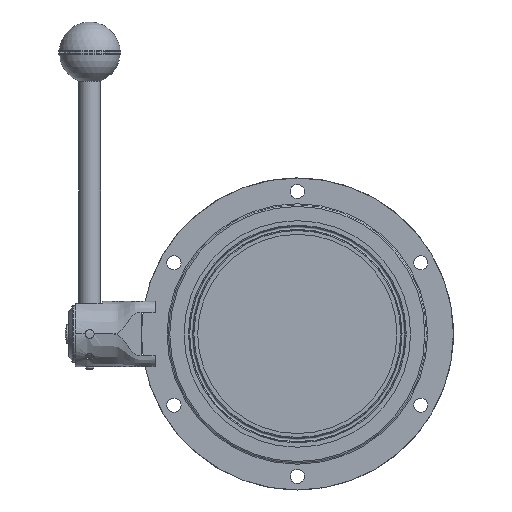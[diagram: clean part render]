
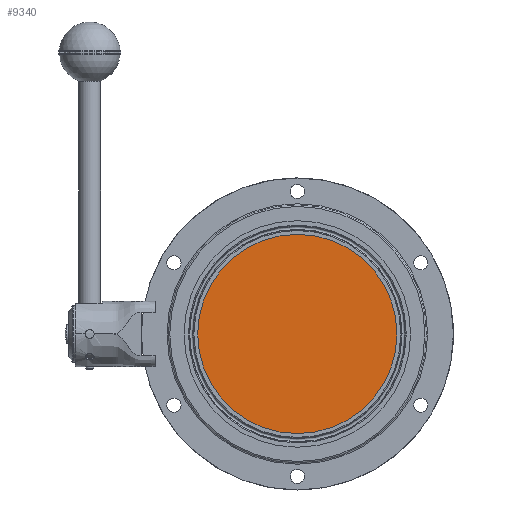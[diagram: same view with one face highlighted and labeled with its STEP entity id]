
A CAD part, left-side view. The second image highlights one B-rep face of the part: STEP entity #9340.
In plain terms, the highlighted planar face has unit normal (-1, 0, 0) as drawn and (1, 0, 0) by its records, which use the part's own axes.
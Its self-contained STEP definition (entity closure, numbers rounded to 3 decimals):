
#1008=PLANE('',#10678);
#1546=FACE_OUTER_BOUND('',#2213,.T.);
#2213=EDGE_LOOP('',(#8679));
#3805=CIRCLE('',#10679,73.43);
#4709=VERTEX_POINT('',#30398);
#6041=EDGE_CURVE('',#4709,#4709,#3805,.T.);
#8679=ORIENTED_EDGE('',*,*,#6041,.T.);
#9340=ADVANCED_FACE('',(#1546),#1008,.T.);
#10678=AXIS2_PLACEMENT_3D('',#30397,#13488,#13489);
#10679=AXIS2_PLACEMENT_3D('',#30399,#13490,#13491);
#13488=DIRECTION('center_axis',(1.,0.,0.));
#13489=DIRECTION('ref_axis',(0.,0.,-1.));
#13490=DIRECTION('center_axis',(1.,0.,0.));
#13491=DIRECTION('ref_axis',(0.,0.,-1.));
#30397=CARTESIAN_POINT('Origin',(25.5,0.,0.));
#30398=CARTESIAN_POINT('',(25.5,-73.43,0.));
#30399=CARTESIAN_POINT('Origin',(25.5,0.,0.));
